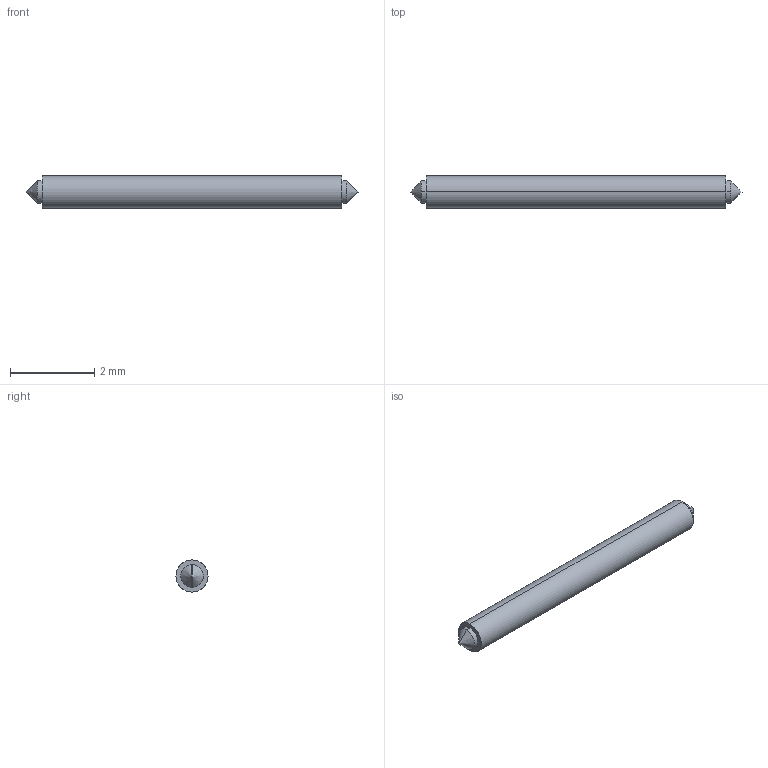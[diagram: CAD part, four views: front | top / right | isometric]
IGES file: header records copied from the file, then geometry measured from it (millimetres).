
Start section: SolidWorks IGES file using analytic representation for surfaces
Global section: file name: Z:\probe solid model mockups\Solidworks models\IGES Files\CSP1-1.27 IGES files\CSP1-1.27BB Full.IGS; native system: SolidWorks 2006 by SolidWorks Corporation; preprocessor: SolidWorks 2006 by SolidWorks Corporation; author: tsakatani; date: 080108.155040; units: inch
Bounding box: 7.87 x 0.76 x 0.76 mm (x, y, z)
Surface area: 18.5 mm2 (no closed solid volume)
Topology: 0 solids, 0 shells, 12 faces, 104 edges, 100 vertices
Faces by surface type: revolution 10, bspline 2
